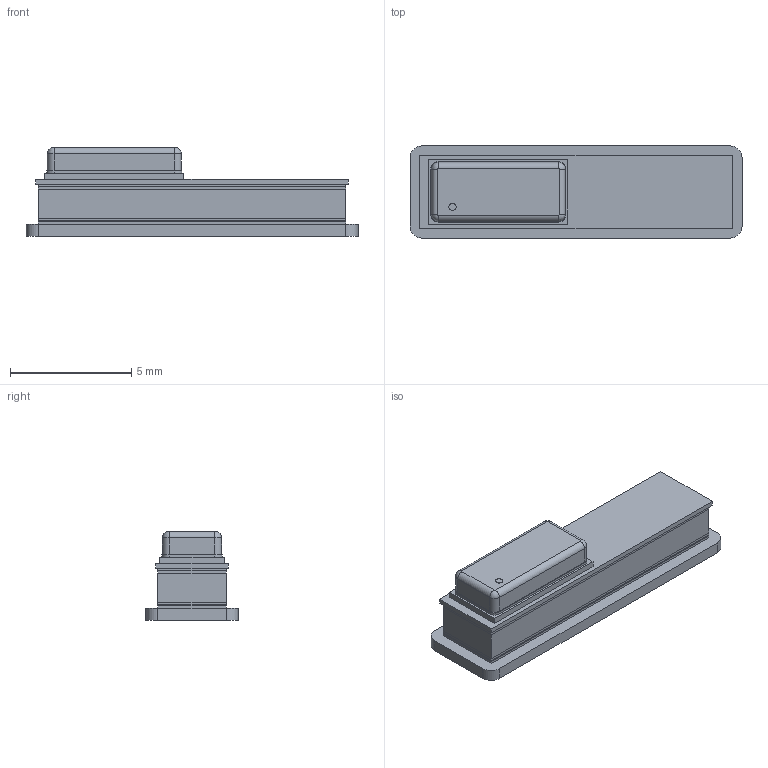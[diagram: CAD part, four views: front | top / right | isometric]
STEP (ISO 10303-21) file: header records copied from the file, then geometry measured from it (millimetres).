
FILE_DESCRIPTION (( 'STEP AP214' ), '1' );
FILE_NAME ('SKR0710+Gasket.STEP', '2026-02-11T22:12:23', ( '' ), ( '' ), 'SwSTEP 2.0', 'SolidWorks 2026', '' );
FILE_SCHEMA (( 'AUTOMOTIVE_DESIGN' ));
Length unit declared in the file: millimetre
Products named in the file (13): Zilltek ZTA4909A Digital ASIC; SKR0710+Gasket_PCB; SKR0710 lid; SKR0710; SKR0710+Gasket_Mesh; SKR0710 PCB; SKR0710+Gasket_in_plane_gasket_V2; SKR0710+Gasket_Product Shell; SKR0710+Gasket_Siffener; SKR0710+Gasket; Tesa61365 adhesive_Gasket; MEMS die; SKR0710+Gasket_Tesa61365 adhesive
Assembly tree (13 placements, depth 3):
  SKR0710+Gasket
    SKR0710+Gasket_PCB
    SKR0710
      MEMS die
      SKR0710 lid
      SKR0710 PCB
      Zilltek ZTA4909A Digital ASIC
    SKR0710+Gasket_Siffener
    SKR0710+Gasket_Tesa61365 adhesive
    SKR0710+Gasket_in_plane_gasket_V2
    Tesa61365 adhesive_Gasket  x2
    SKR0710+Gasket_Mesh
    SKR0710+Gasket_Product Shell
Bounding box: 13.67 x 3.8 x 3.66 mm (x, y, z)
Volume: 85.3 mm3; surface area: 761 mm2
Topology: 13 solids, 13 shells, 214 faces, 507 edges, 330 vertices
Faces by surface type: plane 131, cylinder 71, torus 12
Entity records: 7412 total; most frequent: DIRECTION 1071, CARTESIAN_POINT 1018, ORIENTED_EDGE 966, EDGE_CURVE 483, AXIS2_PLACEMENT_3D 367, VECTOR 337, LINE 337, VERTEX_POINT 314
